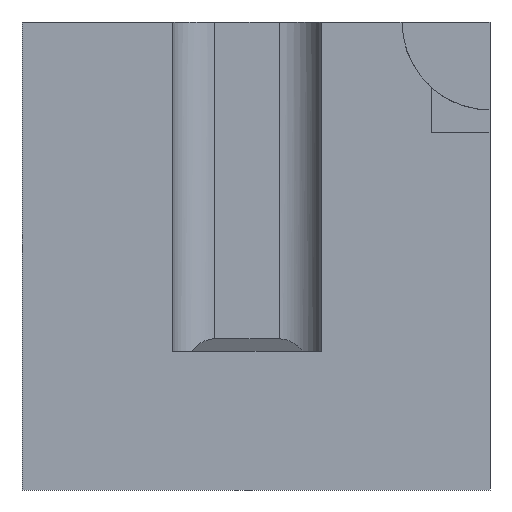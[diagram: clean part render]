
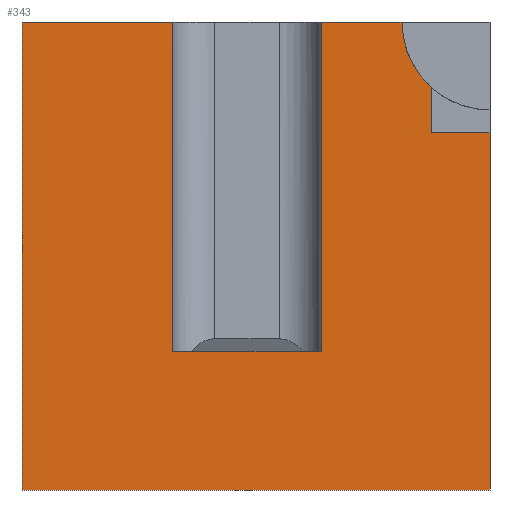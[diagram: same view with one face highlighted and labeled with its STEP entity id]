
A CAD part, front view. The second image highlights one B-rep face of the part: STEP entity #343.
In plain terms, the highlighted planar face has unit normal (0, -1, 0).
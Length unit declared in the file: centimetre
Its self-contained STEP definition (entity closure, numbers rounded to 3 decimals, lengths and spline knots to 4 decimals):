
#3 = CARTESIAN_POINT ( 'NONE',  ( 0., 0., 1000. ) ) ;
#39 = VECTOR ( 'NONE', #1007, 100. ) ;
#73 = CARTESIAN_POINT ( 'NONE',  ( 639.2733, 0., 296.4325 ) ) ;
#96 = VECTOR ( 'NONE', #543, 100. ) ;
#131 = VERTEX_POINT ( 'NONE', #174 ) ;
#145 = CARTESIAN_POINT ( 'NONE',  ( 0., 0., 0. ) ) ;
#174 = CARTESIAN_POINT ( 'NONE',  ( 875.0333, 0., 859.5538 ) ) ;
#177 = VECTOR ( 'NONE', #316, 100. ) ;
#245 = DIRECTION ( 'NONE',  ( 0., 0., 1. ) ) ;
#251 = VECTOR ( 'NONE', #332, 100. ) ;
#281 = EDGE_CURVE ( 'NONE', #791, #1582, #1362, .T. ) ;
#293 = DIRECTION ( 'NONE',  ( 0., 0., 1. ) ) ;
#316 = DIRECTION ( 'NONE',  ( 0., 0., 1. ) ) ;
#323 = VECTOR ( 'NONE', #548, 100. ) ;
#331 = CARTESIAN_POINT ( 'NONE',  ( 875.0333, 0., 762.8703 ) ) ;
#332 = DIRECTION ( 'NONE',  ( 1., 0., 0. ) ) ;
#343 = ADVANCED_FACE ( 'NONE', ( #847 ), #633, .F. ) ;
#370 = VERTEX_POINT ( 'NONE', #766 ) ;
#386 = CARTESIAN_POINT ( 'NONE',  ( 0., 0., 296.4325 ) ) ;
#423 = EDGE_CURVE ( 'NONE', #791, #575, #1143, .T. ) ;
#429 = VERTEX_POINT ( 'NONE', #1099 ) ;
#441 = EDGE_CURVE ( 'NONE', #429, #370, #453, .T. ) ;
#453 = LINE ( 'NONE', #947, #707 ) ;
#492 = VERTEX_POINT ( 'NONE', #821 ) ;
#493 = CARTESIAN_POINT ( 'NONE',  ( 322.1714, 0., 1000. ) ) ;
#494 = LINE ( 'NONE', #1488, #1608 ) ;
#543 = DIRECTION ( 'NONE',  ( 0., 0., -1. ) ) ;
#548 = DIRECTION ( 'NONE',  ( 0., 0., -1. ) ) ;
#549 = ORIENTED_EDGE ( 'NONE', *, *, #1498, .F. ) ;
#575 = VERTEX_POINT ( 'NONE', #73 ) ;
#583 = EDGE_CURVE ( 'NONE', #1582, #131, #1330, .T. ) ;
#593 = ORIENTED_EDGE ( 'NONE', *, *, #423, .T. ) ;
#611 = ORIENTED_EDGE ( 'NONE', *, *, #1678, .T. ) ;
#627 = CARTESIAN_POINT ( 'NONE',  ( 639.2733, 0., 296.4325 ) ) ;
#628 = ORIENTED_EDGE ( 'NONE', *, *, #977, .T. ) ;
#633 = PLANE ( 'NONE',  #1380 ) ;
#657 = CARTESIAN_POINT ( 'NONE',  ( 875.0333, 0., 762.8703 ) ) ;
#677 = EDGE_CURVE ( 'NONE', #1292, #429, #494, .T. ) ;
#707 = VECTOR ( 'NONE', #1075, 100. ) ;
#728 = DIRECTION ( 'NONE',  ( 0., 0., -1. ) ) ;
#729 = AXIS2_PLACEMENT_3D ( 'NONE', #1366, #1651, #728 ) ;
#749 = EDGE_LOOP ( 'NONE', ( #628, #887, #1515, #593, #549, #611, #1096, #921, #1264, #917, #1321 ) ) ;
#753 = LINE ( 'NONE', #386, #1133 ) ;
#766 = CARTESIAN_POINT ( 'NONE',  ( 1000., 0., 0. ) ) ;
#791 = VERTEX_POINT ( 'NONE', #882 ) ;
#792 = DIRECTION ( 'NONE',  ( 1., 0., 0. ) ) ;
#805 = EDGE_CURVE ( 'NONE', #1024, #370, #1397, .T. ) ;
#821 = CARTESIAN_POINT ( 'NONE',  ( 322.1714, 0., 296.4325 ) ) ;
#847 = FACE_OUTER_BOUND ( 'NONE', #749, .T. ) ;
#882 = CARTESIAN_POINT ( 'NONE',  ( 639.2733, 0., 1000. ) ) ;
#887 = ORIENTED_EDGE ( 'NONE', *, *, #583, .F. ) ;
#917 = ORIENTED_EDGE ( 'NONE', *, *, #441, .F. ) ;
#921 = ORIENTED_EDGE ( 'NONE', *, *, #1630, .T. ) ;
#934 = LINE ( 'NONE', #1069, #96 ) ;
#947 = CARTESIAN_POINT ( 'NONE',  ( 1000., 0., 1000. ) ) ;
#970 = CARTESIAN_POINT ( 'NONE',  ( 0., 0., 0. ) ) ;
#973 = VERTEX_POINT ( 'NONE', #1216 ) ;
#977 = EDGE_CURVE ( 'NONE', #1292, #131, #1609, .T. ) ;
#979 = CARTESIAN_POINT ( 'NONE',  ( 0., 0., 1000. ) ) ;
#1007 = DIRECTION ( 'NONE',  ( 1., 0., 0. ) ) ;
#1010 = CARTESIAN_POINT ( 'NONE',  ( 0., 0., 1000. ) ) ;
#1024 = VERTEX_POINT ( 'NONE', #970 ) ;
#1035 = LINE ( 'NONE', #3, #1050 ) ;
#1050 = VECTOR ( 'NONE', #1658, 100. ) ;
#1069 = CARTESIAN_POINT ( 'NONE',  ( 0., 0., 1000. ) ) ;
#1075 = DIRECTION ( 'NONE',  ( 0., 0., -1. ) ) ;
#1080 = VECTOR ( 'NONE', #293, 100. ) ;
#1096 = ORIENTED_EDGE ( 'NONE', *, *, #1487, .F. ) ;
#1099 = CARTESIAN_POINT ( 'NONE',  ( 1000., 0., 762.8703 ) ) ;
#1133 = VECTOR ( 'NONE', #792, 100. ) ;
#1143 = LINE ( 'NONE', #627, #323 ) ;
#1201 = LINE ( 'NONE', #1461, #1080 ) ;
#1216 = CARTESIAN_POINT ( 'NONE',  ( 0., 0., 1000. ) ) ;
#1264 = ORIENTED_EDGE ( 'NONE', *, *, #805, .T. ) ;
#1292 = VERTEX_POINT ( 'NONE', #657 ) ;
#1321 = ORIENTED_EDGE ( 'NONE', *, *, #677, .F. ) ;
#1330 = CIRCLE ( 'NONE', #729, 187.9942 ) ;
#1359 = DIRECTION ( 'NONE',  ( 1., 0., 0. ) ) ;
#1362 = LINE ( 'NONE', #979, #251 ) ;
#1366 = CARTESIAN_POINT ( 'NONE',  ( 1000., 0., 1000. ) ) ;
#1380 = AXIS2_PLACEMENT_3D ( 'NONE', #1010, #1670, #245 ) ;
#1397 = LINE ( 'NONE', #145, #39 ) ;
#1461 = CARTESIAN_POINT ( 'NONE',  ( 322.1714, 0., 296.4325 ) ) ;
#1487 = EDGE_CURVE ( 'NONE', #973, #1567, #1035, .T. ) ;
#1488 = CARTESIAN_POINT ( 'NONE',  ( 875.0333, 0., 762.8703 ) ) ;
#1498 = EDGE_CURVE ( 'NONE', #492, #575, #753, .T. ) ;
#1515 = ORIENTED_EDGE ( 'NONE', *, *, #281, .F. ) ;
#1567 = VERTEX_POINT ( 'NONE', #493 ) ;
#1582 = VERTEX_POINT ( 'NONE', #1593 ) ;
#1593 = CARTESIAN_POINT ( 'NONE',  ( 812.0058, 0., 1000. ) ) ;
#1608 = VECTOR ( 'NONE', #1359, 100. ) ;
#1609 = LINE ( 'NONE', #331, #177 ) ;
#1630 = EDGE_CURVE ( 'NONE', #973, #1024, #934, .T. ) ;
#1651 = DIRECTION ( 'NONE',  ( 0., -1., 0. ) ) ;
#1658 = DIRECTION ( 'NONE',  ( 1., 0., 0. ) ) ;
#1670 = DIRECTION ( 'NONE',  ( 0., 1., 0. ) ) ;
#1678 = EDGE_CURVE ( 'NONE', #492, #1567, #1201, .T. ) ;
